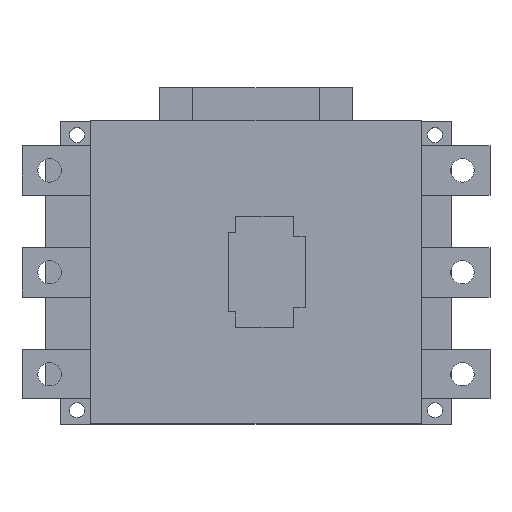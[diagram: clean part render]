
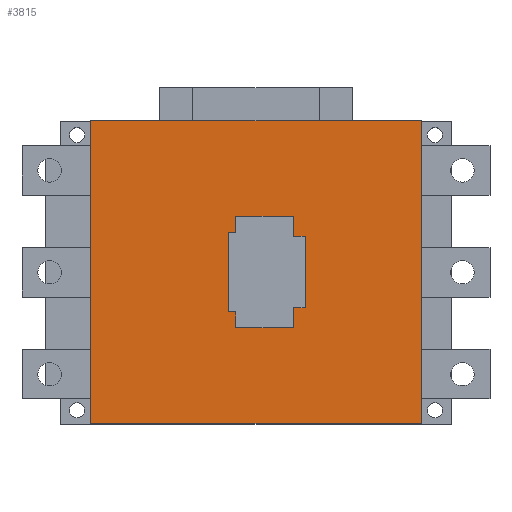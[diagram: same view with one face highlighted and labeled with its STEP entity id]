
A CAD part, top view. The second image highlights one B-rep face of the part: STEP entity #3815.
In plain terms, the highlighted planar face has unit normal (0, 0, 1).
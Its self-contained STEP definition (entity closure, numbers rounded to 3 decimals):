
#25 = DIRECTION ( 'NONE',  ( 1., 0., 0. ) ) ;
#29 = EDGE_LOOP ( 'NONE', ( #999, #2521, #3450, #834, #4252, #4312, #3873, #410, #3035, #147, #473, #4838 ) ) ;
#38 = DIRECTION ( 'NONE',  ( 0., 0., 1. ) ) ;
#44 = PLANE ( 'NONE',  #4633 ) ;
#73 = CARTESIAN_POINT ( 'NONE',  ( 103.577, 6.7, 79. ) ) ;
#95 = VECTOR ( 'NONE', #525, 1000. ) ;
#105 = VERTEX_POINT ( 'NONE', #3255 ) ;
#121 = CARTESIAN_POINT ( 'NONE',  ( 43.577, -48.3, 79. ) ) ;
#147 = ORIENTED_EDGE ( 'NONE', *, *, #1262, .T. ) ;
#190 = DIRECTION ( 'NONE',  ( 1., 0., 0. ) ) ;
#191 = EDGE_CURVE ( 'NONE', #3966, #520, #424, .T. ) ;
#209 = EDGE_CURVE ( 'NONE', #2385, #3966, #1796, .T. ) ;
#222 = VECTOR ( 'NONE', #2134, 1000. ) ;
#244 = VERTEX_POINT ( 'NONE', #2497 ) ;
#291 = VERTEX_POINT ( 'NONE', #2335 ) ;
#319 = VECTOR ( 'NONE', #2082, 1000. ) ;
#355 = VECTOR ( 'NONE', #1701, 1000. ) ;
#404 = EDGE_CURVE ( 'NONE', #638, #2765, #557, .T. ) ;
#410 = ORIENTED_EDGE ( 'NONE', *, *, #1200, .T. ) ;
#415 = VERTEX_POINT ( 'NONE', #1976 ) ;
#424 = LINE ( 'NONE', #2835, #2002 ) ;
#473 = ORIENTED_EDGE ( 'NONE', *, *, #1236, .T. ) ;
#497 = VERTEX_POINT ( 'NONE', #2064 ) ;
#507 = CARTESIAN_POINT ( 'NONE',  ( 103.577, 61.7, 79. ) ) ;
#520 = VERTEX_POINT ( 'NONE', #1780 ) ;
#523 = EDGE_CURVE ( 'NONE', #415, #497, #2143, .T. ) ;
#525 = DIRECTION ( 'NONE',  ( -1., 0., 0. ) ) ;
#526 = FACE_OUTER_BOUND ( 'NONE', #4487, .T. ) ;
#542 = EDGE_CURVE ( 'NONE', #291, #3095, #2107, .T. ) ;
#543 = EDGE_CURVE ( 'NONE', #4688, #291, #1704, .T. ) ;
#557 = LINE ( 'NONE', #2038, #319 ) ;
#560 = CARTESIAN_POINT ( 'NONE',  ( 33.577, 21.15, 79. ) ) ;
#638 = VERTEX_POINT ( 'NONE', #1283 ) ;
#678 = VERTEX_POINT ( 'NONE', #1247 ) ;
#686 = LINE ( 'NONE', #2126, #222 ) ;
#726 = EDGE_CURVE ( 'NONE', #497, #678, #819, .T. ) ;
#781 = CARTESIAN_POINT ( 'NONE',  ( 36.177, -7.75, 79. ) ) ;
#819 = LINE ( 'NONE', #1020, #4085 ) ;
#834 = ORIENTED_EDGE ( 'NONE', *, *, #542, .T. ) ;
#854 = CARTESIAN_POINT ( 'NONE',  ( 61.477, -6.2, 79. ) ) ;
#859 = LINE ( 'NONE', #121, #4055 ) ;
#999 = ORIENTED_EDGE ( 'NONE', *, *, #191, .T. ) ;
#1017 = DIRECTION ( 'NONE',  ( 1., 0., 0. ) ) ;
#1020 = CARTESIAN_POINT ( 'NONE',  ( 103.577, 19.6, 79. ) ) ;
#1159 = DIRECTION ( 'NONE',  ( 0., 1., 0. ) ) ;
#1200 = EDGE_CURVE ( 'NONE', #678, #3463, #686, .T. ) ;
#1236 = EDGE_CURVE ( 'NONE', #105, #2385, #3949, .T. ) ;
#1247 = CARTESIAN_POINT ( 'NONE',  ( 61.477, 19.6, 79. ) ) ;
#1262 = EDGE_CURVE ( 'NONE', #1332, #105, #2828, .T. ) ;
#1264 = EDGE_CURVE ( 'NONE', #520, #4688, #2008, .T. ) ;
#1283 = CARTESIAN_POINT ( 'NONE',  ( 103.577, 61.7, 79. ) ) ;
#1314 = CARTESIAN_POINT ( 'NONE',  ( 33.577, 6.7, 79. ) ) ;
#1332 = VERTEX_POINT ( 'NONE', #5019 ) ;
#1396 = LINE ( 'NONE', #2730, #2154 ) ;
#1421 = DIRECTION ( 'NONE',  ( 0., -1., 0. ) ) ;
#1463 = CARTESIAN_POINT ( 'NONE',  ( 36.177, 26.9, 79. ) ) ;
#1549 = EDGE_CURVE ( 'NONE', #3463, #1332, #4423, .T. ) ;
#1582 = DIRECTION ( 'NONE',  ( 1., 0., 0. ) ) ;
#1599 = DIRECTION ( 'NONE',  ( 0., 1., 0. ) ) ;
#1624 = CARTESIAN_POINT ( 'NONE',  ( 103.577, 21.15, 79. ) ) ;
#1629 = CARTESIAN_POINT ( 'NONE',  ( 36.177, 6.7, 79. ) ) ;
#1647 = CARTESIAN_POINT ( 'NONE',  ( 57.177, 6.7, 79. ) ) ;
#1688 = CARTESIAN_POINT ( 'NONE',  ( 57.177, 6.7, 79. ) ) ;
#1701 = DIRECTION ( 'NONE',  ( 0., -1., 0. ) ) ;
#1704 = LINE ( 'NONE', #1624, #1759 ) ;
#1759 = VECTOR ( 'NONE', #1582, 1000. ) ;
#1763 = DIRECTION ( 'NONE',  ( -1., 0., 0. ) ) ;
#1780 = CARTESIAN_POINT ( 'NONE',  ( 33.577, -7.75, 79. ) ) ;
#1794 = CARTESIAN_POINT ( 'NONE',  ( 103.577, -13.5, 79. ) ) ;
#1796 = LINE ( 'NONE', #2728, #4552 ) ;
#1976 = CARTESIAN_POINT ( 'NONE',  ( 57.177, 26.9, 79. ) ) ;
#1991 = VECTOR ( 'NONE', #2803, 1000. ) ;
#2002 = VECTOR ( 'NONE', #2798, 1000. ) ;
#2008 = LINE ( 'NONE', #1314, #2054 ) ;
#2038 = CARTESIAN_POINT ( 'NONE',  ( 103.577, 6.7, 79. ) ) ;
#2054 = VECTOR ( 'NONE', #1159, 1000. ) ;
#2056 = FACE_BOUND ( 'NONE', #29, .T. ) ;
#2064 = CARTESIAN_POINT ( 'NONE',  ( 57.177, 19.6, 79. ) ) ;
#2082 = DIRECTION ( 'NONE',  ( 0., -1., 0. ) ) ;
#2107 = LINE ( 'NONE', #1629, #2125 ) ;
#2121 = VERTEX_POINT ( 'NONE', #2880 ) ;
#2125 = VECTOR ( 'NONE', #1599, 1000. ) ;
#2126 = CARTESIAN_POINT ( 'NONE',  ( 61.477, 6.7, 79. ) ) ;
#2134 = DIRECTION ( 'NONE',  ( 0., -1., 0. ) ) ;
#2135 = EDGE_CURVE ( 'NONE', #3095, #415, #4612, .T. ) ;
#2143 = LINE ( 'NONE', #1688, #355 ) ;
#2151 = CARTESIAN_POINT ( 'NONE',  ( 103.577, -48.3, 79. ) ) ;
#2154 = VECTOR ( 'NONE', #2722, 1000. ) ;
#2166 = EDGE_CURVE ( 'NONE', #2121, #244, #1396, .T. ) ;
#2335 = CARTESIAN_POINT ( 'NONE',  ( 36.177, 21.15, 79. ) ) ;
#2383 = CARTESIAN_POINT ( 'NONE',  ( 36.177, -13.5, 79. ) ) ;
#2385 = VERTEX_POINT ( 'NONE', #2383 ) ;
#2497 = CARTESIAN_POINT ( 'NONE',  ( -16.423, -48.3, 79. ) ) ;
#2515 = VECTOR ( 'NONE', #1421, 1000. ) ;
#2521 = ORIENTED_EDGE ( 'NONE', *, *, #1264, .T. ) ;
#2575 = ORIENTED_EDGE ( 'NONE', *, *, #404, .F. ) ;
#2645 = DIRECTION ( 'NONE',  ( 0., 1., 0. ) ) ;
#2722 = DIRECTION ( 'NONE',  ( 0., -1., 0. ) ) ;
#2728 = CARTESIAN_POINT ( 'NONE',  ( 36.177, 6.7, 79. ) ) ;
#2730 = CARTESIAN_POINT ( 'NONE',  ( -16.423, 6.7, 79. ) ) ;
#2734 = ORIENTED_EDGE ( 'NONE', *, *, #2166, .T. ) ;
#2765 = VERTEX_POINT ( 'NONE', #2151 ) ;
#2798 = DIRECTION ( 'NONE',  ( -1., 0., 0. ) ) ;
#2803 = DIRECTION ( 'NONE',  ( 1., 0., 0. ) ) ;
#2810 = CARTESIAN_POINT ( 'NONE',  ( 103.577, 26.9, 79. ) ) ;
#2828 = LINE ( 'NONE', #1647, #2515 ) ;
#2835 = CARTESIAN_POINT ( 'NONE',  ( 103.577, -7.75, 79. ) ) ;
#2880 = CARTESIAN_POINT ( 'NONE',  ( -16.423, 61.7, 79. ) ) ;
#2931 = VECTOR ( 'NONE', #1763, 1000. ) ;
#3035 = ORIENTED_EDGE ( 'NONE', *, *, #1549, .T. ) ;
#3095 = VERTEX_POINT ( 'NONE', #1463 ) ;
#3253 = ORIENTED_EDGE ( 'NONE', *, *, #3580, .T. ) ;
#3255 = CARTESIAN_POINT ( 'NONE',  ( 57.177, -13.5, 79. ) ) ;
#3450 = ORIENTED_EDGE ( 'NONE', *, *, #543, .T. ) ;
#3463 = VERTEX_POINT ( 'NONE', #854 ) ;
#3580 = EDGE_CURVE ( 'NONE', #638, #2121, #3733, .T. ) ;
#3733 = LINE ( 'NONE', #507, #95 ) ;
#3815 = ADVANCED_FACE ( 'NONE', ( #526, #2056 ), #44, .T. ) ;
#3873 = ORIENTED_EDGE ( 'NONE', *, *, #726, .T. ) ;
#3949 = LINE ( 'NONE', #1794, #2931 ) ;
#3966 = VERTEX_POINT ( 'NONE', #781 ) ;
#4052 = DIRECTION ( 'NONE',  ( -1., 0., 0. ) ) ;
#4055 = VECTOR ( 'NONE', #190, 1000. ) ;
#4074 = CARTESIAN_POINT ( 'NONE',  ( 103.577, -6.2, 79. ) ) ;
#4085 = VECTOR ( 'NONE', #1017, 1000. ) ;
#4252 = ORIENTED_EDGE ( 'NONE', *, *, #2135, .T. ) ;
#4312 = ORIENTED_EDGE ( 'NONE', *, *, #523, .T. ) ;
#4326 = EDGE_CURVE ( 'NONE', #244, #2765, #859, .T. ) ;
#4349 = ORIENTED_EDGE ( 'NONE', *, *, #4326, .T. ) ;
#4423 = LINE ( 'NONE', #4074, #4771 ) ;
#4487 = EDGE_LOOP ( 'NONE', ( #4349, #2575, #3253, #2734 ) ) ;
#4552 = VECTOR ( 'NONE', #2645, 1000. ) ;
#4612 = LINE ( 'NONE', #2810, #1991 ) ;
#4633 = AXIS2_PLACEMENT_3D ( 'NONE', #73, #38, #25 ) ;
#4688 = VERTEX_POINT ( 'NONE', #560 ) ;
#4771 = VECTOR ( 'NONE', #4052, 1000. ) ;
#4838 = ORIENTED_EDGE ( 'NONE', *, *, #209, .T. ) ;
#5019 = CARTESIAN_POINT ( 'NONE',  ( 57.177, -6.2, 79. ) ) ;
